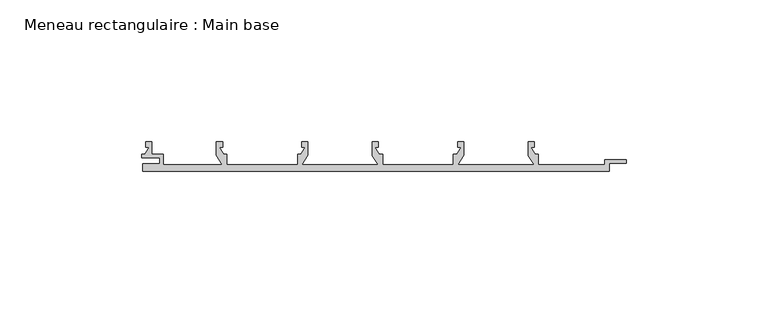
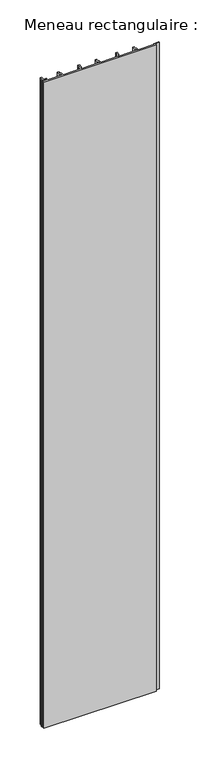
"""IFC4 building model written with IfcOpenShell, lengths in millimetres: member geometry, Meneau rectangulaire : Main base."""

from ifc_helpers import new_model, si_unit, frame, origin, place, context, project, spatial, polyline, outline, extrude, source, transform, mapped, element, save


def meneau_rectangulaire_main_base_fb5a564e(model_context):
    return source(origin(), model_context, "Body", "SweptSolid", [
        extrude(outline(polyline([(0.0, 0.0), (0.0, 2.7), (6.0195527, 2.7), (6.0195527, 4.9), (-0.3862402, 4.9), (-0.3862402, 6.1021884), (0.6999453, 6.1021884), (2.2885111, 8.4994005), (1.0265772, 8.4994005), (1.0265772, 10.4818695), (3.2291033, 10.4818695), (3.2291033, 6.1), (7.2195527, 6.1), (7.2195527, 2.4), (28.0399616, 2.4), (25.9408405, 5.6343123), (25.9408405, 10.4818695), (28.1433665, 10.4818695), (28.1433665, 8.4994005), (26.8814326, 8.4994005), (28.4699984, 6.1021884), (29.5849719, 6.1021884), (29.5849719, 2.4), (54.5854713, 2.4), (54.5854713, 6.1021884), (55.7004447, 6.1021884), (57.2890105, 8.4994005), (56.0270766, 8.4994005), (56.0270766, 10.4818695), (58.2296027, 10.4818695), (58.2296027, 5.6343123), (56.1304815, 2.4), (83.0447009, 2.4), (80.9746231, 5.5238337), (80.9413399, 10.4818695), (83.1438659, 10.4818695), (83.1438659, 8.4994005), (81.881932, 8.4994005), (83.4704978, 6.1021884), (84.5854713, 6.1021884), (84.5854713, 2.4), (109.5859707, 2.4), (109.5859707, 6.1021884), (110.7009441, 6.1021884), (112.2895099, 8.4994005), (111.027576, 8.4994005), (111.027576, 10.4818695), (113.2301021, 10.4818695), (113.2301021, 5.6343123), (111.1309809, 2.4), (138.0474159, 2.4), (135.9773381, 5.5238337), (135.9440548, 10.4818695), (138.1465809, 10.4818695), (138.1465809, 8.4994005), (136.884647, 8.4994005), (138.4732128, 6.1021884), (139.5881862, 6.1021884), (139.5881862, 2.4), (163.0577537, 2.4), (163.0577537, 4.2), (170.5761088, 4.2), (170.5761088, 2.85), (164.5761088, 2.85), (164.5761088, 0.0), (0.0, 0.0)])), frame((0.0, 0.0, -1000.0), z_axis=(0.0, 0.0, 1.0), x_axis=(1.0, 0.0, 0.0)), (0.0, 0.0, 1.0), 1000.0),
    ])


if __name__ == "__main__":
    model = new_model("IFC4")
    model_context = context("Model", 3, world=origin())
    ifc_project = project(units=[si_unit("LENGTHUNIT", "METRE", prefix="MILLI")], contexts=[model_context])
    site = spatial("IfcSite", under=ifc_project)
    building = spatial("IfcBuilding", under=site)
    placement = place(None, origin())
    meneau_rectangulaire_main_base_shape = meneau_rectangulaire_main_base_fb5a564e(model_context)
    element("IfcMember", 1, ObjectType="Meneau rectangulaire : Main base", at=placement, inside=building, context=model_context, shape_type="MappedRepresentation", body=[
        mapped(meneau_rectangulaire_main_base_shape, transform((0.0, 0.0, 0.0), x_axis=(1.0, 0.0, 0.0), y_axis=(0.0, 1.0, 0.0), z_axis=(0.0, 0.0, 1.0))),
    ])
    save(model, "model.ifc")
